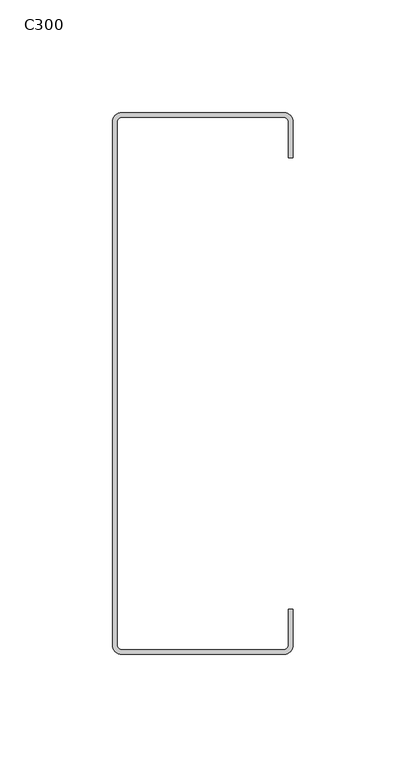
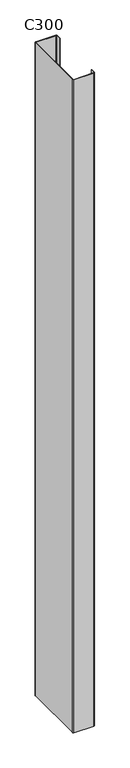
"""IFC4 building model written with IfcOpenShell, lengths in millimetres: column geometry, Тонкостенная-C-колонна : C300."""

from ifc_helpers import new_model, si_unit, point, frame_2d, origin, origin_with_axes, place, context, project, spatial, polyline, circle_curve, trimmed, segment, composite_curve, outline, extrude, source, transform, mapped, element, save


def c300_ace66113(model_context):
    return source(origin(), model_context, "Body", "SweptSolid", [
        extrude(outline(composite_curve([segment(polyline([(80.0, 116.0), (80.0, 100.0), (78.0, 100.0), (78.0, 116.0)]), True, "CONTINUOUS"), segment(trimmed(circle_curve(frame_2d((76.0, 116.0)), 2.0), [point((78.0, 116.0))], [point((76.0, 118.0))], True, "CARTESIAN"), True, "CONTINUOUS"), segment(polyline([(76.0, 118.0), (4.0, 118.0)]), True, "CONTINUOUS"), segment(trimmed(circle_curve(frame_2d((4.0, 116.0)), 2.0), [point((4.0, 118.0))], [point((2.0, 116.0))], True, "CARTESIAN"), True, "CONTINUOUS"), segment(polyline([(2.0, 116.0), (2.0, -116.0)]), True, "CONTINUOUS"), segment(trimmed(circle_curve(frame_2d((4.0, -116.0)), 2.0), [point((2.0, -116.0))], [point((4.0, -118.0))], True, "CARTESIAN"), True, "CONTINUOUS"), segment(polyline([(4.0, -118.0), (76.0, -118.0)]), True, "CONTINUOUS"), segment(trimmed(circle_curve(frame_2d((76.0, -116.0)), 2.0), [point((76.0, -118.0))], [point((78.0, -116.0))], True, "CARTESIAN"), True, "CONTINUOUS"), segment(polyline([(78.0, -116.0), (78.0, -100.0), (80.0, -100.0), (80.0, -116.0)]), True, "CONTINUOUS"), segment(trimmed(circle_curve(frame_2d((76.0, -116.0)), 4.0), [point((80.0, -116.0))], [point((76.0, -120.0))], False, "CARTESIAN"), True, "CONTINUOUS"), segment(polyline([(76.0, -120.0), (4.0, -120.0)]), True, "CONTINUOUS"), segment(trimmed(circle_curve(frame_2d((4.0, -116.0)), 4.0), [point((4.0, -120.0))], [point((0.0, -116.0))], False, "CARTESIAN"), True, "CONTINUOUS"), segment(polyline([(0.0, -116.0), (0.0, 116.0)]), True, "CONTINUOUS"), segment(trimmed(circle_curve(frame_2d((4.0, 116.0)), 4.0), [point((0.0, 116.0))], [point((4.0, 120.0))], False, "CARTESIAN"), True, "CONTINUOUS"), segment(polyline([(4.0, 120.0), (76.0, 120.0)]), True, "CONTINUOUS"), segment(trimmed(circle_curve(frame_2d((76.0, 116.0)), 4.0), [point((76.0, 120.0))], [point((80.0, 116.0))], False, "CARTESIAN"), True, "CONTINUOUS")], self_intersect=False)), origin_with_axes(), (0.0, 0.0, 1.0), 2500.0),
    ])


if __name__ == "__main__":
    model = new_model("IFC4")
    model_context = context("Model", 3, world=origin())
    ifc_project = project(units=[si_unit("LENGTHUNIT", "METRE", prefix="MILLI")], contexts=[model_context])
    site = spatial("IfcSite", under=ifc_project)
    building = spatial("IfcBuilding", under=site)
    placement = place(None, origin())
    c300_shape = c300_ace66113(model_context)
    element("IfcColumn", 1, ObjectType="Тонкостенная-C-колонна : C300", at=placement, inside=building, context=model_context, shape_type="MappedRepresentation", body=[
        mapped(c300_shape, transform((0.0, 0.0, 0.0), x_axis=(1.0, 0.0, 0.0), y_axis=(0.0, 1.0, 0.0), z_axis=(0.0, 0.0, 1.0))),
    ])
    save(model, "model.ifc")
